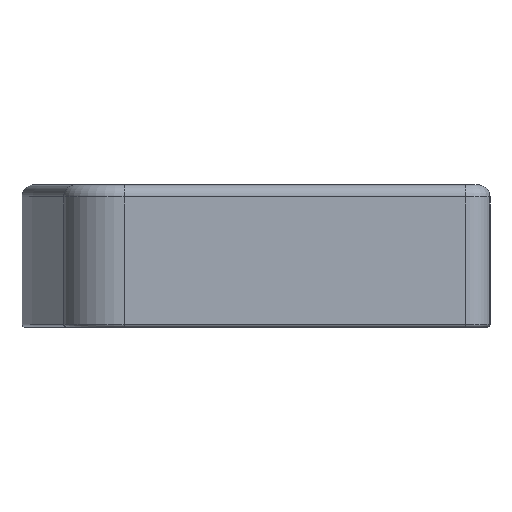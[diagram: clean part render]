
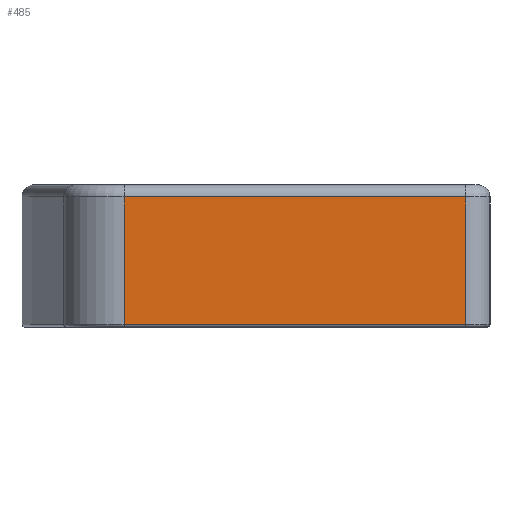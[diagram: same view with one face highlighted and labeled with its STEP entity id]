
A CAD part, left-side view. The second image highlights one B-rep face of the part: STEP entity #485.
In plain terms, the highlighted planar face has unit normal (-1, 0, 0).
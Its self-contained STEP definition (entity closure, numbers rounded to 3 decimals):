
#44 = CYLINDRICAL_SURFACE('',#45,12.);
#45 = AXIS2_PLACEMENT_3D('',#46,#47,#48);
#46 = CARTESIAN_POINT('',(-357.,12.,0.));
#47 = DIRECTION('',(-0.,-0.,-1.));
#48 = DIRECTION('',(-1.,0.,0.));
#141 = EDGE_CURVE('',#142,#144,#146,.T.);
#142 = VERTEX_POINT('',#143);
#143 = CARTESIAN_POINT('',(-369.,12.,1.5));
#144 = VERTEX_POINT('',#145);
#145 = CARTESIAN_POINT('',(-369.,12.,64.));
#146 = SURFACE_CURVE('',#147,(#151,#158),.PCURVE_S1.);
#147 = LINE('',#148,#149);
#148 = CARTESIAN_POINT('',(-369.,12.,0.));
#149 = VECTOR('',#150,1.);
#150 = DIRECTION('',(0.,0.,1.));
#151 = PCURVE('',#44,#152);
#152 = DEFINITIONAL_REPRESENTATION('',(#153),#157);
#153 = LINE('',#154,#155);
#154 = CARTESIAN_POINT('',(-0.,0.));
#155 = VECTOR('',#156,1.);
#156 = DIRECTION('',(-0.,-1.));
#157 = ( GEOMETRIC_REPRESENTATION_CONTEXT(2) 
PARAMETRIC_REPRESENTATION_CONTEXT() REPRESENTATION_CONTEXT('2D SPACE',''
  ) );
#158 = PCURVE('',#159,#164);
#159 = PLANE('',#160);
#160 = AXIS2_PLACEMENT_3D('',#161,#162,#163);
#161 = CARTESIAN_POINT('',(-369.,179.788,0.));
#162 = DIRECTION('',(1.,0.,-0.));
#163 = DIRECTION('',(0.,-1.,0.));
#164 = DEFINITIONAL_REPRESENTATION('',(#165),#169);
#165 = LINE('',#166,#167);
#166 = CARTESIAN_POINT('',(167.788,0.));
#167 = VECTOR('',#168,1.);
#168 = DIRECTION('',(0.,-1.));
#169 = ( GEOMETRIC_REPRESENTATION_CONTEXT(2) 
PARAMETRIC_REPRESENTATION_CONTEXT() REPRESENTATION_CONTEXT('2D SPACE',''
  ) );
#485 = ADVANCED_FACE('',(#486),#159,.F.);
#486 = FACE_BOUND('',#487,.F.);
#487 = EDGE_LOOP('',(#488,#518,#544,#545));
#488 = ORIENTED_EDGE('',*,*,#489,.T.);
#489 = EDGE_CURVE('',#490,#492,#494,.T.);
#490 = VERTEX_POINT('',#491);
#491 = CARTESIAN_POINT('',(-369.,179.788,1.5));
#492 = VERTEX_POINT('',#493);
#493 = CARTESIAN_POINT('',(-369.,179.788,64.));
#494 = SURFACE_CURVE('',#495,(#499,#506),.PCURVE_S1.);
#495 = LINE('',#496,#497);
#496 = CARTESIAN_POINT('',(-369.,179.788,0.));
#497 = VECTOR('',#498,1.);
#498 = DIRECTION('',(0.,0.,1.));
#499 = PCURVE('',#159,#500);
#500 = DEFINITIONAL_REPRESENTATION('',(#501),#505);
#501 = LINE('',#502,#503);
#502 = CARTESIAN_POINT('',(0.,0.));
#503 = VECTOR('',#504,1.);
#504 = DIRECTION('',(0.,-1.));
#505 = ( GEOMETRIC_REPRESENTATION_CONTEXT(2) 
PARAMETRIC_REPRESENTATION_CONTEXT() REPRESENTATION_CONTEXT('2D SPACE',''
  ) );
#506 = PCURVE('',#507,#512);
#507 = CYLINDRICAL_SURFACE('',#508,30.);
#508 = AXIS2_PLACEMENT_3D('',#509,#510,#511);
#509 = CARTESIAN_POINT('',(-339.,179.788,0.));
#510 = DIRECTION('',(-0.,-0.,-1.));
#511 = DIRECTION('',(-0.119,0.993,0.));
#512 = DEFINITIONAL_REPRESENTATION('',(#513),#517);
#513 = LINE('',#514,#515);
#514 = CARTESIAN_POINT('',(-1.452,0.));
#515 = VECTOR('',#516,1.);
#516 = DIRECTION('',(-0.,-1.));
#517 = ( GEOMETRIC_REPRESENTATION_CONTEXT(2) 
PARAMETRIC_REPRESENTATION_CONTEXT() REPRESENTATION_CONTEXT('2D SPACE',''
  ) );
#518 = ORIENTED_EDGE('',*,*,#519,.T.);
#519 = EDGE_CURVE('',#492,#144,#520,.T.);
#520 = SURFACE_CURVE('',#521,(#525,#532),.PCURVE_S1.);
#521 = LINE('',#522,#523);
#522 = CARTESIAN_POINT('',(-369.,179.788,64.));
#523 = VECTOR('',#524,1.);
#524 = DIRECTION('',(0.,-1.,0.));
#525 = PCURVE('',#159,#526);
#526 = DEFINITIONAL_REPRESENTATION('',(#527),#531);
#527 = LINE('',#528,#529);
#528 = CARTESIAN_POINT('',(0.,-64.));
#529 = VECTOR('',#530,1.);
#530 = DIRECTION('',(1.,0.));
#531 = ( GEOMETRIC_REPRESENTATION_CONTEXT(2) 
PARAMETRIC_REPRESENTATION_CONTEXT() REPRESENTATION_CONTEXT('2D SPACE',''
  ) );
#532 = PCURVE('',#533,#538);
#533 = CYLINDRICAL_SURFACE('',#534,6.);
#534 = AXIS2_PLACEMENT_3D('',#535,#536,#537);
#535 = CARTESIAN_POINT('',(-363.,179.788,64.));
#536 = DIRECTION('',(0.,-1.,0.));
#537 = DIRECTION('',(-1.,-0.,0.));
#538 = DEFINITIONAL_REPRESENTATION('',(#539),#543);
#539 = LINE('',#540,#541);
#540 = CARTESIAN_POINT('',(-0.,0.));
#541 = VECTOR('',#542,1.);
#542 = DIRECTION('',(-0.,1.));
#543 = ( GEOMETRIC_REPRESENTATION_CONTEXT(2) 
PARAMETRIC_REPRESENTATION_CONTEXT() REPRESENTATION_CONTEXT('2D SPACE',''
  ) );
#544 = ORIENTED_EDGE('',*,*,#141,.F.);
#545 = ORIENTED_EDGE('',*,*,#546,.F.);
#546 = EDGE_CURVE('',#490,#142,#547,.T.);
#547 = SURFACE_CURVE('',#548,(#552,#559),.PCURVE_S1.);
#548 = LINE('',#549,#550);
#549 = CARTESIAN_POINT('',(-369.,179.788,1.5));
#550 = VECTOR('',#551,1.);
#551 = DIRECTION('',(0.,-1.,0.));
#552 = PCURVE('',#159,#553);
#553 = DEFINITIONAL_REPRESENTATION('',(#554),#558);
#554 = LINE('',#555,#556);
#555 = CARTESIAN_POINT('',(0.,-1.5));
#556 = VECTOR('',#557,1.);
#557 = DIRECTION('',(1.,0.));
#558 = ( GEOMETRIC_REPRESENTATION_CONTEXT(2) 
PARAMETRIC_REPRESENTATION_CONTEXT() REPRESENTATION_CONTEXT('2D SPACE',''
  ) );
#559 = PCURVE('',#560,#565);
#560 = CYLINDRICAL_SURFACE('',#561,1.5);
#561 = AXIS2_PLACEMENT_3D('',#562,#563,#564);
#562 = CARTESIAN_POINT('',(-367.5,179.788,1.5));
#563 = DIRECTION('',(0.,-1.,0.));
#564 = DIRECTION('',(-1.,-0.,0.));
#565 = DEFINITIONAL_REPRESENTATION('',(#566),#570);
#566 = LINE('',#567,#568);
#567 = CARTESIAN_POINT('',(0.,0.));
#568 = VECTOR('',#569,1.);
#569 = DIRECTION('',(0.,1.));
#570 = ( GEOMETRIC_REPRESENTATION_CONTEXT(2) 
PARAMETRIC_REPRESENTATION_CONTEXT() REPRESENTATION_CONTEXT('2D SPACE',''
  ) );
